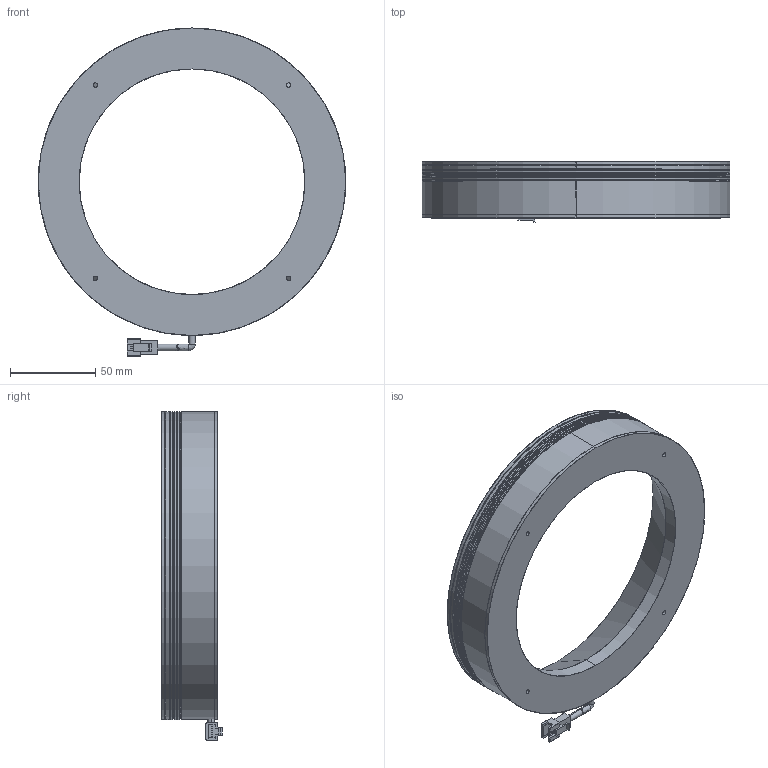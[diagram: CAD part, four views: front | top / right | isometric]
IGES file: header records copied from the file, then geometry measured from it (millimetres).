
Start section: SolidWorks IGES file using analytic representation for surfaces
Global section: file name: \\yushimv\workstation\新款图纸\标准产品\环光\环光60\R18060-132\ED\R18060-132.IGS; native system: SolidWorks 2021; preprocessor: SolidWorks 2021; author: yushimv; date: 210716.191038; units: millimetre
Bounding box: 180 x 35.65 x 192 mm (x, y, z)
Surface area: 139276.8 mm2 (no closed solid volume)
Topology: 0 solids, 0 shells, 345 faces, 5164 edges, 5132 vertices
Faces by surface type: bspline 187, revolution 158
